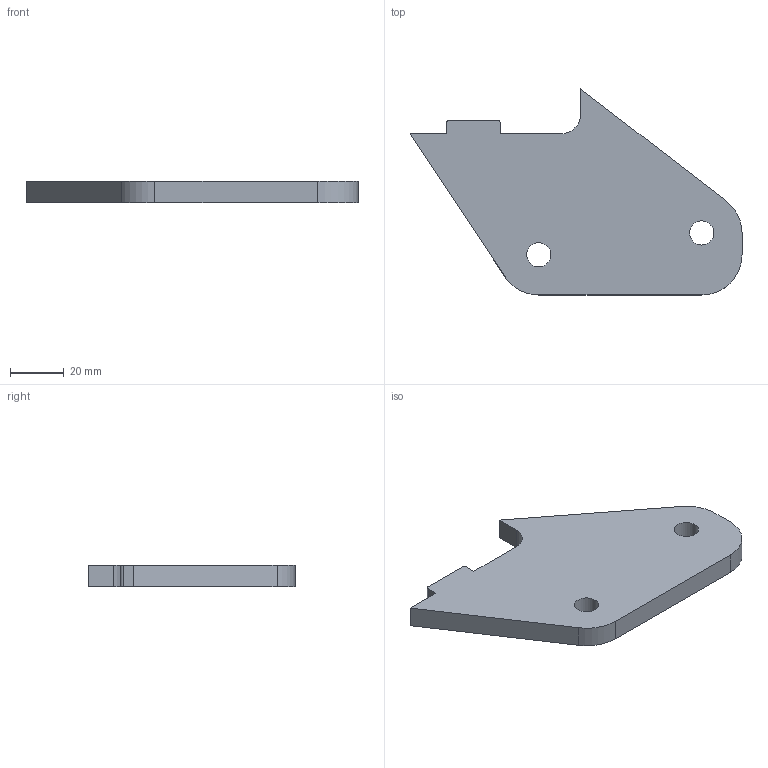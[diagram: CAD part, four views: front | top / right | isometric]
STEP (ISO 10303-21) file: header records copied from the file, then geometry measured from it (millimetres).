
FILE_DESCRIPTION(/* description */ (''),/* implementation_level */ '2;1');
FILE_NAME(/* name */ 'Pos147-Plaatwerk D= 8-S235JRG2-3st',/* time_stamp */ '2024-08-06T13:37:45+02:00',/* author */ (''),/* organization */ (''),/* preprocessor_version */ 'ST-DEVELOPER v16.5',/* originating_system */ 'HiCAD 2024 2901.2 Build 361',/* authorisation */ '');
FILE_SCHEMA (('AUTOMOTIVE_DESIGN { 1 0 10303 214 1 1 1 1 }'));
Length unit declared in the file: millimetre
Products named in the file (1): Pos147-Plaatwerk D= 8-S235JRG2-3st
Bounding box: 123.58 x 76.68 x 8 mm (x, y, z)
Volume: 46012.1 mm3; surface area: 14670 mm2
Topology: 1 solids, 1 shells, 20 faces, 56 edges, 38 vertices
Faces by surface type: plane 12, cylinder 8
Full cylindrical faces by diameter (mm): 9 x2
Entity records: 1170 total; most frequent: DIRECTION 108, CARTESIAN_POINT 108, PRESENTATION_STYLE_ASSIGNMENT 105, COLOUR_RGB 105, DRAUGHTING_PRE_DEFINED_CURVE_FONT 104, CURVE_STYLE 104, OVER_RIDING_STYLED_ITEM 104, ORIENTED_EDGE 104
